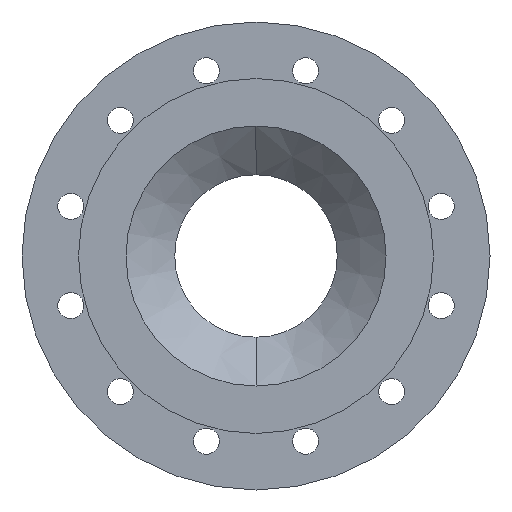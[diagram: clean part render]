
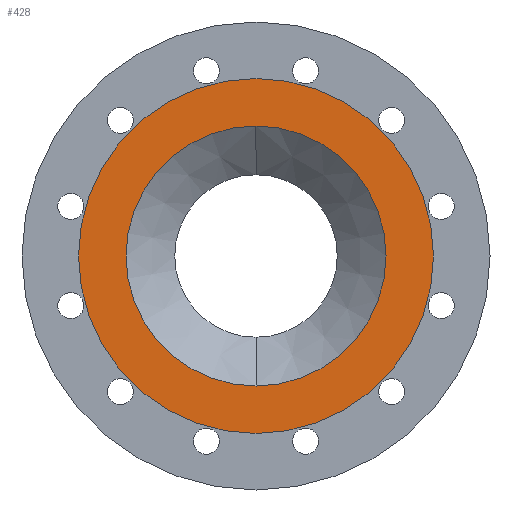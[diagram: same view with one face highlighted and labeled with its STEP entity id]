
A CAD part, left-side view. The second image highlights one B-rep face of the part: STEP entity #428.
In plain terms, the highlighted planar face has unit normal (-1, 0, 0).
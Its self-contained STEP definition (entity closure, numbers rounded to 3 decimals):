
#428=ADVANCED_FACE('',(#855,#856),#857,.F.);
#855=FACE_BOUND('',#1408,.T.);
#856=FACE_OUTER_BOUND('',#1409,.T.);
#857=PLANE('',#1410);
#1408=EDGE_LOOP('',(#2079,#2080));
#1409=EDGE_LOOP('',(#2081,#2082));
#1410=AXIS2_PLACEMENT_3D('',#2083,#2084,#2085);
#2079=ORIENTED_EDGE('',*,*,#3072,.T.);
#2080=ORIENTED_EDGE('',*,*,#3073,.T.);
#2081=ORIENTED_EDGE('',*,*,#2908,.F.);
#2082=ORIENTED_EDGE('',*,*,#3074,.F.);
#2083=CARTESIAN_POINT('',(0.0,0.0,0.));
#2084=DIRECTION('',(1.0,0.0,0.));
#2085=DIRECTION('',(0.,0.0,-1.0));
#2908=EDGE_CURVE('',#3388,#3391,#3392,.T.);
#3072=EDGE_CURVE('',#3655,#3656,#3657,.T.);
#3073=EDGE_CURVE('',#3656,#3655,#3658,.T.);
#3074=EDGE_CURVE('',#3391,#3388,#3659,.T.);
#3388=VERTEX_POINT('',#4058);
#3391=VERTEX_POINT('',#4062);
#3392=CIRCLE('',#4063,136.5);
#3655=VERTEX_POINT('',#4407);
#3656=VERTEX_POINT('',#4408);
#3657=CIRCLE('',#4409,100.0);
#3658=CIRCLE('',#4410,100.0);
#3659=CIRCLE('',#4411,136.5);
#4058=CARTESIAN_POINT('',(0.,0.0,-136.5));
#4062=CARTESIAN_POINT('',(0.,0.,136.5));
#4063=AXIS2_PLACEMENT_3D('',#4841,#4842,#4843);
#4407=CARTESIAN_POINT('',(0.,0.0,-100.0));
#4408=CARTESIAN_POINT('',(0.,0.,100.0));
#4409=AXIS2_PLACEMENT_3D('',#5051,#5052,#5053);
#4410=AXIS2_PLACEMENT_3D('',#5054,#5055,#5056);
#4411=AXIS2_PLACEMENT_3D('',#5057,#5058,#5059);
#4841=CARTESIAN_POINT('',(0.0,0.0,0.));
#4842=DIRECTION('',(1.0,0.0,0.));
#4843=DIRECTION('',(0.,0.0,-1.0));
#5051=CARTESIAN_POINT('',(0.0,0.0,0.0));
#5052=DIRECTION('',(1.0,0.0,0.));
#5053=DIRECTION('',(0.,0.0,-1.0));
#5054=CARTESIAN_POINT('',(0.0,0.0,0.0));
#5055=DIRECTION('',(1.0,0.0,0.));
#5056=DIRECTION('',(0.,0.0,-1.0));
#5057=CARTESIAN_POINT('',(0.0,0.0,0.));
#5058=DIRECTION('',(1.0,0.0,0.));
#5059=DIRECTION('',(0.,0.0,-1.0));
